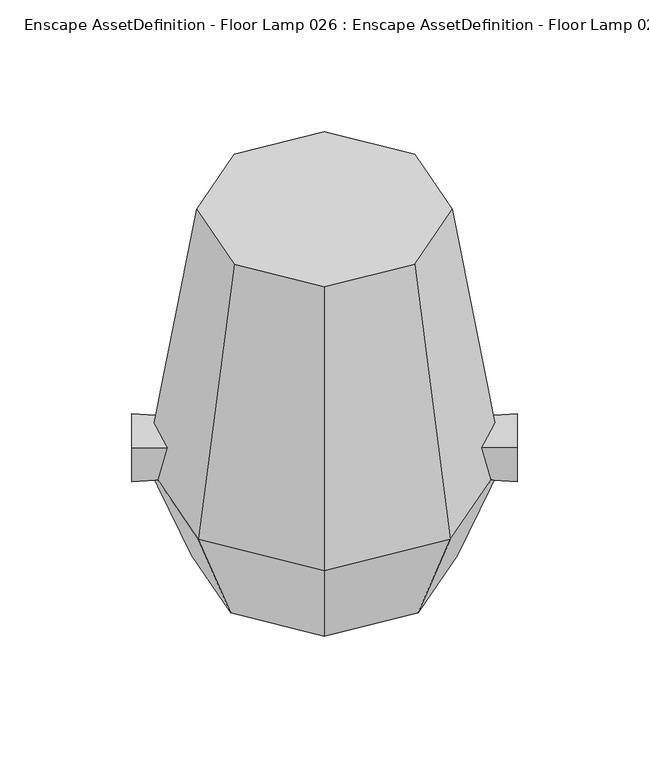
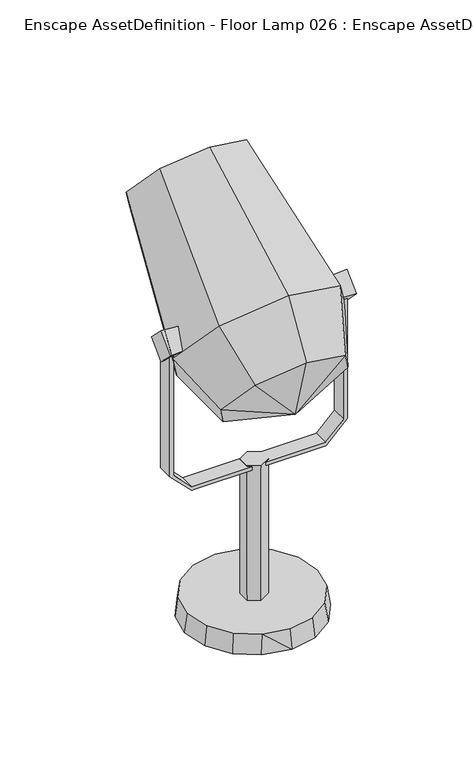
"""IFC4 building model written with IfcOpenShell, lengths in millimetres: geographic element geometry, Enscape AssetDefinition - Floor Lamp 026 : Enscape AssetDefinition - Floor Lamp 026 2."""

from ifc_helpers import new_model, si_unit, origin, place, context, project, spatial, triangles, source, transform, mapped, element, save


def enscape_assetdefinition_floor_lamp_026_enscape_8a451b57(model_context):
    return source(origin(), model_context, "Body", "Tessellation", [
        triangles([(-19.610256, -45.318155, 15.7895272), (0.0, -51.5293992, 0.2342534), (-37.8686188, 39.8936405, 0.2342534), (-37.8686188, -35.843597, 0.2342534), (-49.4775713, 22.519374, 0.2342534), (37.8686188, -35.843597, 0.2342534), (49.4775713, -18.4693305, 0.2342534), (-21.2436797, -46.9522849, 0.2342534), (53.554421, 2.0250222, 0.2342534), (37.8686188, 39.8936405, 0.2342534), (20.4943522, 51.5025931, 0.2342534), (0.0, 55.5794472, 0.2342534), (36.2351951, -34.2101688, 15.7895272), (47.3431813, -17.5852354, 15.7895272), (47.3431813, 21.6352801, 15.7895272), (-36.2351951, 38.2595106, 15.7895272), (51.2436427, 2.0250222, 15.7895272), (36.2351951, 38.2595106, 15.7895272), (49.4775713, 22.519374, 0.2342534), (19.610256, 49.3681985, 15.7895272), (0.0, 53.2686644, 15.7895272), (-19.610256, 49.3681985, 15.7895272), (-20.4943522, 51.5025931, 0.2342534), (-51.2436427, 2.0250222, 15.7895272), (-47.3431813, -17.5852354, 15.7895272), (-47.3431813, 21.6352801, 15.7895272), (-53.554421, 2.0250222, 0.2342534), (-49.4775713, -18.4693305, 0.2342534), (-36.2351951, -34.2101688, 15.7895272), (0.0, -49.2193249, 15.7895272), (20.4943522, -47.4532536, 0.2342534), (19.610256, -45.318155, 15.7895272), (-8.3794979, -4.8381795, 15.7895272), (-8.3794979, 4.8381795, 127.491019), (-8.3794979, 4.8381795, 15.7895272), (0.0, -9.675654, 15.7895272), (0.0, 9.675654, 15.7895272), (8.3794979, -4.8381795, 15.7895272), (8.3794979, 4.8381795, 15.7895272), (8.3794979, 4.8381795, 127.491019), (0.0, 9.675654, 127.491019), (8.3794979, -4.8381795, 127.491019), (-8.3794979, -4.8381795, 127.491019), (0.0, -9.675654, 127.491019), (67.0388177, 6.1787863, 140.9351929), (67.0388177, -6.1787863, 140.9351929), (67.0388177, 6.1787863, 246.9024076), (67.0388177, -6.1787863, 246.9024076), (70.0587097, 6.1787863, 246.9024076), (70.0587097, -6.1787863, 246.9024076), (53.0125391, 6.1787863, 123.6519455), (70.0587097, 6.1787863, 140.6973985), (70.0587097, -6.1787863, 140.6973985), (-53.0125391, 6.1787863, 123.6519455), (53.0125391, -6.1787863, 123.6519455), (52.7747583, -6.1787863, 126.6718375), (-52.7747583, -6.1787863, 126.6718375), (-53.0125391, -6.1787863, 123.6519455), (-70.0587097, 6.1787863, 140.6973985), (-67.0388177, 6.1787863, 140.9351929), (-70.0587097, -6.1787863, 140.6973985), (-67.0388177, -6.1787863, 140.9351929), (-70.0587097, -6.1787863, 246.9024076), (52.7747583, 6.1787863, 126.6718375), (-52.7747583, 6.1787863, 126.6718375), (-70.0587097, 6.1787863, 246.9024076), (-67.0388177, 6.1787863, 246.9024076), (-67.0388177, -6.1787863, 246.9024076), (58.5633494, 0.0, 234.9992097), (58.5633494, -11.9038837, 246.9024076), (73.2465284, 12.8535975, 246.9024076), (73.2465284, 0.0, 234.0487953), (73.2465284, -12.8535975, 246.9024076), (58.5633494, 0.0, 258.8062958), (58.5633494, 11.9038837, 246.9024076), (73.2465284, 0.0, 259.7559834), (-58.5633494, -11.9038837, 246.9024076), (-58.5633494, 11.9038837, 246.9024076), (-58.5633494, 0.0, 234.9992097), (-73.2465284, -12.8535975, 246.9024076), (-73.2465284, 0.0, 259.7559834), (-73.2465284, 0.0, 234.0487953), (-58.5633494, 0.0, 258.8062958), (-73.2465284, 12.8535975, 246.9024076), (50.3630732, -41.0437384, 210.9324919), (0.0, -56.5623224, 199.0949514), (-50.3630732, -41.0437384, 210.9324919), (-35.6121636, -62.6423246, 239.2468247), (0.0, -71.5891123, 250.9750332), (35.6121636, -19.4451498, 182.6188859), (47.859665, 23.2828153, 199.8076077), (0.0, 35.3059413, 184.0455611), (0.0, 120.0887364, 272.7408195), (67.6837184, -5.7448534, 237.8596637), (34.3555247, 111.4580586, 284.055554), (34.3555247, 69.7849392, 338.6852863), (48.5857153, 90.6215034, 311.3707835), (0.0, -46.7956493, 291.67373), (47.859665, -34.771817, 275.9124101), (35.6121636, -62.6423246, 239.2468247), (-47.859665, -34.771817, 275.9124101), (0.0, 61.1535529, 350.0000027), (-34.3555247, 69.7849392, 338.6852863), (-48.5857153, 90.6215034, 311.3707835), (-67.6837184, -5.7448534, 237.8596637), (-34.3555247, 111.4580586, 284.055554), (-35.6121636, -19.4451498, 182.6188859), (-47.859665, 23.2828153, 199.8076077), (0.0, -10.4983633, 170.8906955)], [[102, 96, 93], [92, 109, 108], [108, 93, 92], [87, 108, 107], [108, 109, 107], [106, 93, 108], [93, 106, 102], [106, 104, 102], [104, 106, 105], [105, 108, 87], [105, 106, 108], [88, 105, 87], [101, 105, 88], [89, 101, 88], [104, 105, 103], [103, 102, 104], [103, 105, 101], [102, 103, 98], [98, 101, 89], [98, 103, 101], [100, 98, 89], [96, 102, 99], [99, 98, 100], [99, 102, 98], [96, 99, 97], [96, 97, 93], [95, 93, 97], [99, 100, 94], [97, 99, 94], [95, 97, 91], [95, 91, 93], [92, 91, 109], [91, 97, 94], [93, 91, 92], [94, 85, 91], [94, 100, 85], [109, 91, 90], [91, 85, 90], [89, 86, 100], [88, 86, 89], [87, 86, 88], [107, 86, 87], [109, 86, 107], [90, 86, 109], [85, 86, 90], [100, 86, 85], [83, 78, 81], [84, 78, 82], [81, 78, 84], [77, 78, 83], [81, 77, 83], [82, 80, 84], [80, 77, 81], [84, 80, 81], [79, 78, 77], [82, 79, 80], [82, 78, 79], [80, 79, 77], [74, 70, 76], [76, 75, 74], [75, 70, 74], [71, 75, 76], [72, 71, 73], [73, 71, 76], [76, 70, 73], [69, 70, 75], [72, 69, 71], [70, 69, 73], [71, 69, 75], [73, 69, 72], [68, 62, 67], [63, 62, 68], [63, 68, 66], [66, 68, 67], [67, 60, 66], [67, 62, 60], [62, 65, 60], [57, 65, 62], [56, 64, 57], [57, 64, 65], [61, 62, 63], [63, 66, 61], [61, 57, 62], [60, 65, 59], [66, 60, 59], [61, 66, 59], [59, 65, 54], [58, 57, 61], [54, 58, 59], [58, 56, 57], [59, 58, 61], [55, 56, 58], [54, 65, 51], [55, 58, 51], [51, 65, 64], [51, 58, 54], [55, 51, 53], [53, 56, 55], [51, 64, 52], [53, 51, 52], [49, 47, 50], [49, 50, 52], [52, 50, 53], [46, 56, 53], [50, 46, 53], [48, 46, 50], [50, 47, 48], [52, 45, 49], [64, 56, 45], [47, 45, 48], [49, 45, 47], [52, 64, 45], [45, 56, 46], [48, 45, 46], [41, 37, 34], [35, 33, 34], [43, 33, 44], [38, 39, 42], [40, 39, 41], [36, 38, 44], [41, 34, 40], [34, 43, 40], [43, 44, 40], [39, 38, 37], [36, 33, 38], [35, 37, 33], [34, 37, 35], [34, 33, 43], [44, 33, 36], [42, 39, 40], [41, 39, 37], [44, 38, 42], [42, 40, 44], [38, 33, 37], [32, 2, 31], [32, 31, 13], [13, 31, 6], [30, 1, 2], [32, 13, 30], [30, 2, 32], [30, 13, 16], [29, 30, 16], [16, 26, 29], [1, 30, 29], [29, 28, 4], [25, 28, 29], [25, 27, 28], [26, 24, 29], [25, 29, 24], [24, 27, 25], [26, 5, 24], [16, 5, 26], [24, 5, 27], [3, 5, 16], [22, 23, 16], [16, 23, 3], [22, 16, 21], [12, 23, 21], [21, 11, 12], [21, 23, 22], [20, 11, 21], [20, 10, 11], [21, 16, 18], [20, 21, 18], [18, 10, 20], [18, 19, 10], [15, 19, 18], [17, 18, 16], [15, 18, 17], [13, 17, 16], [17, 19, 15], [14, 17, 13], [6, 7, 13], [14, 7, 17], [13, 7, 14], [9, 19, 17], [17, 7, 9], [3, 23, 8], [23, 12, 8], [12, 11, 8], [11, 10, 8], [10, 19, 8], [19, 9, 8], [9, 7, 8], [7, 6, 8], [6, 31, 8], [2, 8, 31], [4, 28, 8], [28, 27, 8], [27, 5, 8], [4, 8, 29], [5, 3, 8], [2, 1, 8], [29, 8, 1]]),
    ])


if __name__ == "__main__":
    model = new_model("IFC4")
    model_context = context("Model", 3, world=origin())
    ifc_project = project(units=[si_unit("LENGTHUNIT", "METRE", prefix="MILLI")], contexts=[model_context])
    site = spatial("IfcSite", under=ifc_project)
    building = spatial("IfcBuilding", under=site)
    placement = place(None, origin())
    enscape_assetdefinition_floor_lamp_026_enscape_shape = enscape_assetdefinition_floor_lamp_026_enscape_8a451b57(model_context)
    element("IfcGeographicElement", 1, ObjectType="Enscape AssetDefinition - Floor Lamp 026 : Enscape AssetDefinition - Floor Lamp 026 2", at=placement, inside=building, context=model_context, shape_type="MappedRepresentation", body=[
        mapped(enscape_assetdefinition_floor_lamp_026_enscape_shape, transform((0.0, 0.0, 0.0), x_axis=(1.0, 0.0, 0.0), y_axis=(0.0, 1.0, 0.0), z_axis=(0.0, 0.0, 1.0))),
    ])
    save(model, "model.ifc")
